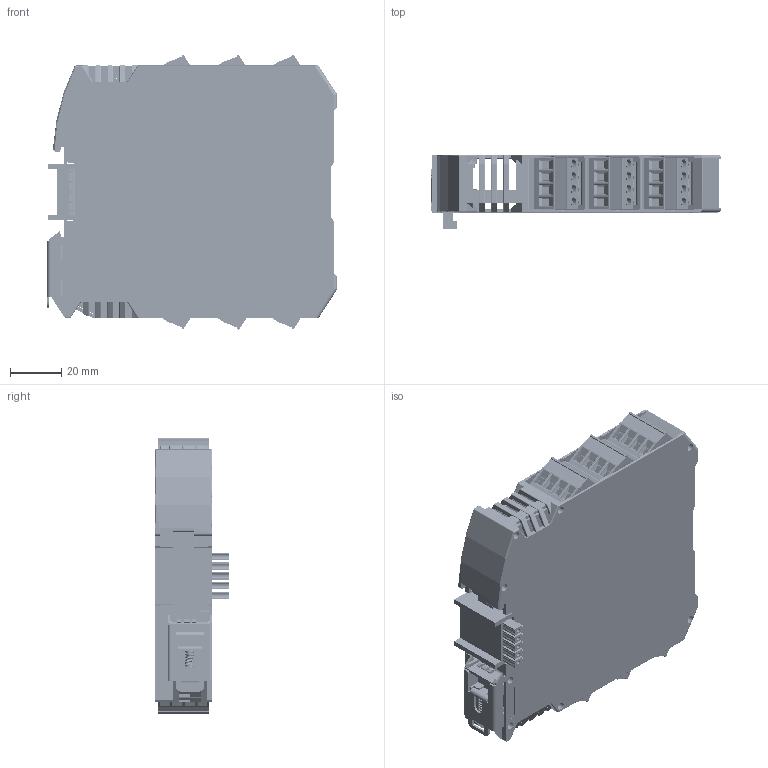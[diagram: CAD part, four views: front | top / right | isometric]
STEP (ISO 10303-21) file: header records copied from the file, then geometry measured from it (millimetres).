
FILE_DESCRIPTION(('STEP AP214'), '1');
FILE_NAME('SLA-4PO-4DI-1RC â ñòåïêóóóóóóóóóóóóó', '', ('UNSPECIFIED'), ('UNSPECIFIED'), 'C3D Converter', 'C3D Toolkit', '');
FILE_SCHEMA(('AUTOMOTIVE_DESIGN { 1 0 10303 214 3 1 1}'));
Length unit declared in the file: millimetre
Bounding box: 113.65 x 29.21 x 107.77 mm (x, y, z)
Volume: 84549 mm3; surface area: 108808 mm2
Topology: 15 solids, 43 shells, 8445 faces, 24184 edges, 16008 vertices
Faces by surface type: plane 5488, extrusion 1802, cylinder 1097, cone 50, bspline 6, torus 2
Full cylindrical faces by diameter (mm): 0.3 x79, 0.4 x37, 0.5 x2, 0.6 x13, 0.8 x16, 1 x18, 1.4 x28, 1.5 x24, 1.6 x11, 2.2 x12, 2.8 x49, 3 x16, 3.796 x24, 4 x24, 4.5 x1
Entity records: 356656 total; most frequent: CARTESIAN_POINT 75252, ORIENTED_EDGE 47525, DIRECTION 36729, EDGE_CURVE 23817, VECTOR 18847, LINE 17045, VERTEX_POINT 16008, EDGE_LOOP 9815
